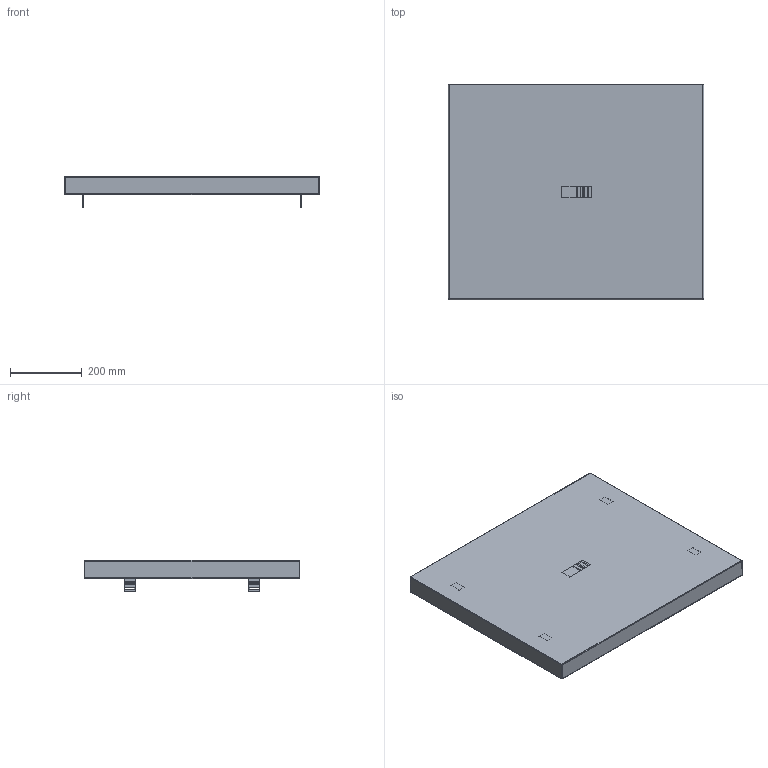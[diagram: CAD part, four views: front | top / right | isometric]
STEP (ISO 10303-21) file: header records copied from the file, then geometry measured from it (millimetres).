
FILE_DESCRIPTION( ( 'Unknown' ), '1' );
FILE_NAME( 'Q:/C2/WEB DRAWINGS/STEP/C2T2423R.stp', 'Unknown', ( 'Unknown' ), ( 'Unknown' ), 'XStep 1.0', 'Unknown', ' ' );
FILE_SCHEMA( ( 'CONFIG_CONTROL_DESIGN' ) );
Length unit declared in the file: millimetre
Products named in the file (3): Assem1; 1; 2
Bounding box: 711.2 x 600.08 x 87.55 mm (x, y, z)
Volume: 1716845.5 mm3; surface area: 2367051 mm2
Topology: 7 solids, 7 shells, 254 faces, 624 edges, 384 vertices
Faces by surface type: plane 196, cylinder 42, bspline 16
Entity records: 2816 total; most frequent: CARTESIAN_POINT 714, ORIENTED_EDGE 408, DIRECTION 380, EDGE_CURVE 204, LINE 168, VECTOR 168, VERTEX_POINT 120, AXIS2_PLACEMENT_3D 106
